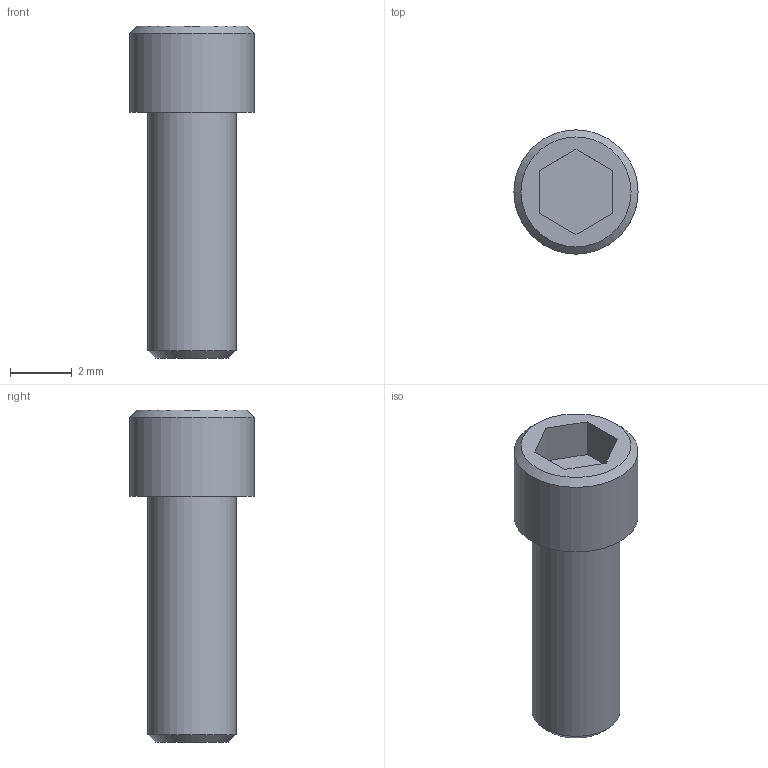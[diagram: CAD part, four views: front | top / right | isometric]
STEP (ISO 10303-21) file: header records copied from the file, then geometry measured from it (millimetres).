
FILE_DESCRIPTION((''),'2;1');
FILE_NAME('C:\Users\Stan\Desktop\import\SHCS 4-40 UNCx0.3125.ipt.step','2011-08-18T17:44:28',(''),(''),'Autodesk Inventor 2012','Autodesk Inventor 2012','');
FILE_SCHEMA(('AUTOMOTIVE_DESIGN { 1 0 10303 214 1 1 1 1 }'));
Length unit declared in the file: inch
Products named in the file (1): SHCS 4-40 UNCx0.3125
Bounding box: 4.01 x 4.01 x 10.73 mm (x, y, z)
Volume: 78.9 mm3; surface area: 139.2 mm2
Topology: 1 solids, 1 shells, 14 faces, 28 edges, 18 vertices
Faces by surface type: plane 10, cone 2, cylinder 2
Full cylindrical faces by diameter (mm): 2.845 x1, 4.013 x1
Entity records: 391 total; most frequent: DIRECTION 60, CARTESIAN_POINT 57, ORIENTED_EDGE 48, EDGE_CURVE 24, AXIS2_PLACEMENT_3D 21, EDGE_LOOP 20, VERTEX_POINT 18, VECTOR 18
